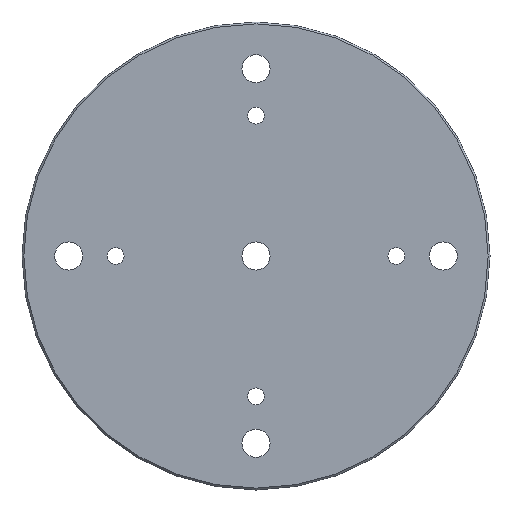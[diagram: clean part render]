
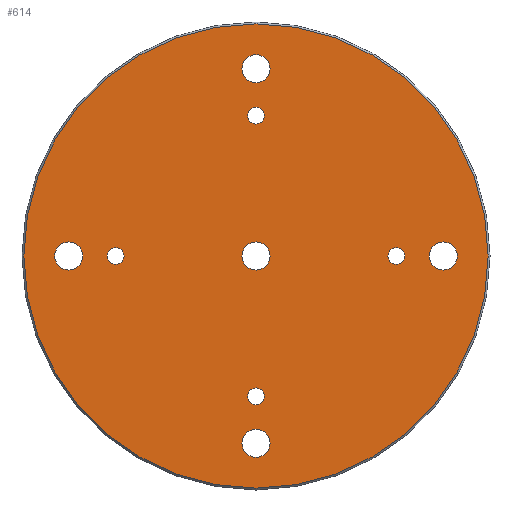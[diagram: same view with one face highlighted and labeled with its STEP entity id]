
A CAD part, front view. The second image highlights one B-rep face of the part: STEP entity #614.
In plain terms, the highlighted planar face has unit normal (0, -1, 0).
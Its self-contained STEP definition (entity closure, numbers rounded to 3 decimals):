
#1=CARTESIAN_POINT('',(0.,-25.,-200.));
#2=DIRECTION('',(0.,-1.,0.));
#3=DIRECTION('',(1.,0.,0.));
#4=AXIS2_PLACEMENT_3D('',#1,#2,#3);
#6=CARTESIAN_POINT('',(0.,-25.,-200.));
#7=DIRECTION('',(0.,-1.,0.));
#8=DIRECTION('',(-1.,0.,0.));
#9=AXIS2_PLACEMENT_3D('',#6,#7,#8);
#11=CARTESIAN_POINT('',(-200.,-25.,0.));
#12=DIRECTION('',(0.,-1.,0.));
#13=DIRECTION('',(0.,0.,-1.));
#14=AXIS2_PLACEMENT_3D('',#11,#12,#13);
#16=CARTESIAN_POINT('',(-200.,-25.,0.));
#17=DIRECTION('',(0.,-1.,0.));
#18=DIRECTION('',(0.,0.,1.));
#19=AXIS2_PLACEMENT_3D('',#16,#17,#18);
#21=CARTESIAN_POINT('',(0.,-25.,200.));
#22=DIRECTION('',(0.,-1.,0.));
#23=DIRECTION('',(-1.,0.,0.));
#24=AXIS2_PLACEMENT_3D('',#21,#22,#23);
#26=CARTESIAN_POINT('',(0.,-25.,200.));
#27=DIRECTION('',(0.,-1.,0.));
#28=DIRECTION('',(1.,0.,0.));
#29=AXIS2_PLACEMENT_3D('',#26,#27,#28);
#31=CARTESIAN_POINT('',(200.,-25.,0.));
#32=DIRECTION('',(0.,-1.,0.));
#33=DIRECTION('',(0.,0.,1.));
#34=AXIS2_PLACEMENT_3D('',#31,#32,#33);
#36=CARTESIAN_POINT('',(200.,-25.,0.));
#37=DIRECTION('',(0.,-1.,0.));
#38=DIRECTION('',(0.,0.,-1.));
#39=AXIS2_PLACEMENT_3D('',#36,#37,#38);
#41=CARTESIAN_POINT('',(0.,-25.,-150.));
#42=DIRECTION('',(0.,1.,0.));
#43=DIRECTION('',(1.,0.,0.));
#44=AXIS2_PLACEMENT_3D('',#41,#42,#43);
#46=CARTESIAN_POINT('',(0.,-25.,-150.));
#47=DIRECTION('',(0.,1.,0.));
#48=DIRECTION('',(-1.,0.,0.));
#49=AXIS2_PLACEMENT_3D('',#46,#47,#48);
#51=CARTESIAN_POINT('',(-150.,-25.,0.));
#52=DIRECTION('',(0.,1.,0.));
#53=DIRECTION('',(0.,0.,-1.));
#54=AXIS2_PLACEMENT_3D('',#51,#52,#53);
#56=CARTESIAN_POINT('',(-150.,-25.,0.));
#57=DIRECTION('',(0.,1.,0.));
#58=DIRECTION('',(0.,0.,1.));
#59=AXIS2_PLACEMENT_3D('',#56,#57,#58);
#61=CARTESIAN_POINT('',(0.,-25.,150.));
#62=DIRECTION('',(0.,1.,0.));
#63=DIRECTION('',(-1.,0.,0.));
#64=AXIS2_PLACEMENT_3D('',#61,#62,#63);
#66=CARTESIAN_POINT('',(0.,-25.,150.));
#67=DIRECTION('',(0.,1.,0.));
#68=DIRECTION('',(1.,0.,0.));
#69=AXIS2_PLACEMENT_3D('',#66,#67,#68);
#71=CARTESIAN_POINT('',(150.,-25.,0.));
#72=DIRECTION('',(0.,1.,0.));
#73=DIRECTION('',(0.,0.,1.));
#74=AXIS2_PLACEMENT_3D('',#71,#72,#73);
#76=CARTESIAN_POINT('',(150.,-25.,0.));
#77=DIRECTION('',(0.,1.,0.));
#78=DIRECTION('',(0.,0.,-1.));
#79=AXIS2_PLACEMENT_3D('',#76,#77,#78);
#81=CARTESIAN_POINT('',(0.,-25.,0.));
#82=DIRECTION('',(0.,-1.,0.));
#83=DIRECTION('',(1.,0.,0.));
#84=AXIS2_PLACEMENT_3D('',#81,#82,#83);
#86=CARTESIAN_POINT('',(0.,-25.,0.));
#87=DIRECTION('',(0.,-1.,0.));
#88=DIRECTION('',(-1.,0.,0.));
#89=AXIS2_PLACEMENT_3D('',#86,#87,#88);
#91=CARTESIAN_POINT('',(0.,-25.,0.));
#92=DIRECTION('',(0.,-1.,0.));
#93=DIRECTION('',(-1.,0.,0.));
#94=AXIS2_PLACEMENT_3D('',#91,#92,#93);
#96=CARTESIAN_POINT('',(0.,-25.,0.));
#97=DIRECTION('',(0.,-1.,0.));
#98=DIRECTION('',(1.,0.,0.));
#99=AXIS2_PLACEMENT_3D('',#96,#97,#98);
#429=CARTESIAN_POINT('',(15.,-25.,-200.));
#430=CARTESIAN_POINT('',(-15.,-25.,-200.));
#431=VERTEX_POINT('',#429);
#432=VERTEX_POINT('',#430);
#437=CARTESIAN_POINT('',(-200.,-25.,-15.));
#438=CARTESIAN_POINT('',(-200.,-25.,15.));
#439=VERTEX_POINT('',#437);
#440=VERTEX_POINT('',#438);
#445=CARTESIAN_POINT('',(-15.,-25.,200.));
#446=CARTESIAN_POINT('',(15.,-25.,200.));
#447=VERTEX_POINT('',#445);
#448=VERTEX_POINT('',#446);
#453=CARTESIAN_POINT('',(200.,-25.,15.));
#454=CARTESIAN_POINT('',(200.,-25.,-15.));
#455=VERTEX_POINT('',#453);
#456=VERTEX_POINT('',#454);
#469=CARTESIAN_POINT('',(9.,-25.,-150.));
#470=CARTESIAN_POINT('',(-9.,-25.,-150.));
#471=VERTEX_POINT('',#469);
#472=VERTEX_POINT('',#470);
#485=CARTESIAN_POINT('',(-150.,-25.,-9.));
#486=CARTESIAN_POINT('',(-150.,-25.,9.));
#487=VERTEX_POINT('',#485);
#488=VERTEX_POINT('',#486);
#501=CARTESIAN_POINT('',(-9.,-25.,150.));
#502=CARTESIAN_POINT('',(9.,-25.,150.));
#503=VERTEX_POINT('',#501);
#504=VERTEX_POINT('',#502);
#517=CARTESIAN_POINT('',(150.,-25.,9.));
#518=CARTESIAN_POINT('',(150.,-25.,-9.));
#519=VERTEX_POINT('',#517);
#520=VERTEX_POINT('',#518);
#525=CARTESIAN_POINT('',(15.,-25.,0.));
#526=CARTESIAN_POINT('',(-15.,-25.,0.));
#527=VERTEX_POINT('',#525);
#528=VERTEX_POINT('',#526);
#541=CARTESIAN_POINT('',(-248.,-25.,0.));
#542=CARTESIAN_POINT('',(248.,-25.,0.));
#543=VERTEX_POINT('',#541);
#544=VERTEX_POINT('',#542);
#549=CARTESIAN_POINT('',(0.,-25.,0.));
#550=DIRECTION('',(0.,1.,0.));
#551=DIRECTION('',(1.,0.,0.));
#552=AXIS2_PLACEMENT_3D('',#549,#550,#551);
#553=PLANE('',#552);
#555=ORIENTED_EDGE('',*,*,#554,.F.);
#557=ORIENTED_EDGE('',*,*,#556,.F.);
#558=EDGE_LOOP('',(#555,#557));
#559=FACE_OUTER_BOUND('',#558,.F.);
#561=ORIENTED_EDGE('',*,*,#560,.T.);
#563=ORIENTED_EDGE('',*,*,#562,.T.);
#564=EDGE_LOOP('',(#561,#563));
#565=FACE_BOUND('',#564,.F.);
#567=ORIENTED_EDGE('',*,*,#566,.T.);
#569=ORIENTED_EDGE('',*,*,#568,.T.);
#570=EDGE_LOOP('',(#567,#569));
#571=FACE_BOUND('',#570,.F.);
#573=ORIENTED_EDGE('',*,*,#572,.T.);
#575=ORIENTED_EDGE('',*,*,#574,.T.);
#576=EDGE_LOOP('',(#573,#575));
#577=FACE_BOUND('',#576,.F.);
#579=ORIENTED_EDGE('',*,*,#578,.F.);
#581=ORIENTED_EDGE('',*,*,#580,.F.);
#582=EDGE_LOOP('',(#579,#581));
#583=FACE_BOUND('',#582,.F.);
#585=ORIENTED_EDGE('',*,*,#584,.F.);
#587=ORIENTED_EDGE('',*,*,#586,.F.);
#588=EDGE_LOOP('',(#585,#587));
#589=FACE_BOUND('',#588,.F.);
#591=ORIENTED_EDGE('',*,*,#590,.F.);
#593=ORIENTED_EDGE('',*,*,#592,.F.);
#594=EDGE_LOOP('',(#591,#593));
#595=FACE_BOUND('',#594,.F.);
#597=ORIENTED_EDGE('',*,*,#596,.F.);
#599=ORIENTED_EDGE('',*,*,#598,.F.);
#600=EDGE_LOOP('',(#597,#599));
#601=FACE_BOUND('',#600,.F.);
#603=ORIENTED_EDGE('',*,*,#602,.T.);
#605=ORIENTED_EDGE('',*,*,#604,.T.);
#606=EDGE_LOOP('',(#603,#605));
#607=FACE_BOUND('',#606,.F.);
#609=ORIENTED_EDGE('',*,*,#608,.T.);
#611=ORIENTED_EDGE('',*,*,#610,.T.);
#612=EDGE_LOOP('',(#609,#611));
#613=FACE_BOUND('',#612,.F.);
#614=ADVANCED_FACE('',(#559,#565,#571,#577,#583,#589,#595,#601,#607,#613),#553,
.F.);
#5=CIRCLE('',#4,15.);
#10=CIRCLE('',#9,15.);
#15=CIRCLE('',#14,15.);
#20=CIRCLE('',#19,15.);
#25=CIRCLE('',#24,15.);
#30=CIRCLE('',#29,15.);
#35=CIRCLE('',#34,15.);
#40=CIRCLE('',#39,15.);
#45=CIRCLE('',#44,9.);
#50=CIRCLE('',#49,9.);
#55=CIRCLE('',#54,9.);
#60=CIRCLE('',#59,9.);
#65=CIRCLE('',#64,9.);
#70=CIRCLE('',#69,9.);
#75=CIRCLE('',#74,9.);
#80=CIRCLE('',#79,9.);
#85=CIRCLE('',#84,15.);
#90=CIRCLE('',#89,15.);
#95=CIRCLE('',#94,248.);
#100=CIRCLE('',#99,248.);
#554=EDGE_CURVE('',#543,#544,#95,.T.);
#556=EDGE_CURVE('',#544,#543,#100,.T.);
#560=EDGE_CURVE('',#439,#440,#15,.T.);
#562=EDGE_CURVE('',#440,#439,#20,.T.);
#566=EDGE_CURVE('',#447,#448,#25,.T.);
#568=EDGE_CURVE('',#448,#447,#30,.T.);
#572=EDGE_CURVE('',#455,#456,#35,.T.);
#574=EDGE_CURVE('',#456,#455,#40,.T.);
#578=EDGE_CURVE('',#471,#472,#45,.T.);
#580=EDGE_CURVE('',#472,#471,#50,.T.);
#584=EDGE_CURVE('',#487,#488,#55,.T.);
#586=EDGE_CURVE('',#488,#487,#60,.T.);
#590=EDGE_CURVE('',#503,#504,#65,.T.);
#592=EDGE_CURVE('',#504,#503,#70,.T.);
#596=EDGE_CURVE('',#519,#520,#75,.T.);
#598=EDGE_CURVE('',#520,#519,#80,.T.);
#602=EDGE_CURVE('',#527,#528,#85,.T.);
#604=EDGE_CURVE('',#528,#527,#90,.T.);
#608=EDGE_CURVE('',#431,#432,#5,.T.);
#610=EDGE_CURVE('',#432,#431,#10,.T.);
